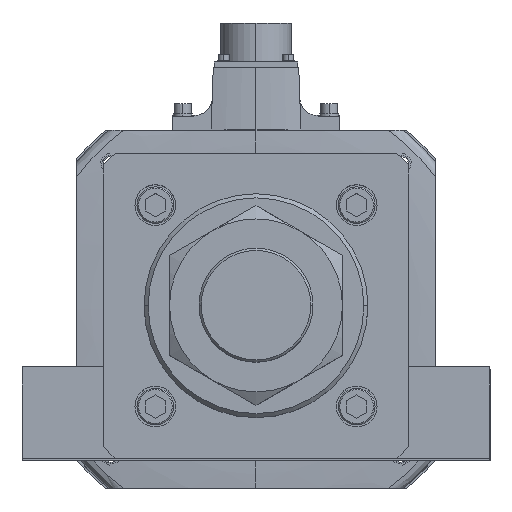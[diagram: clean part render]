
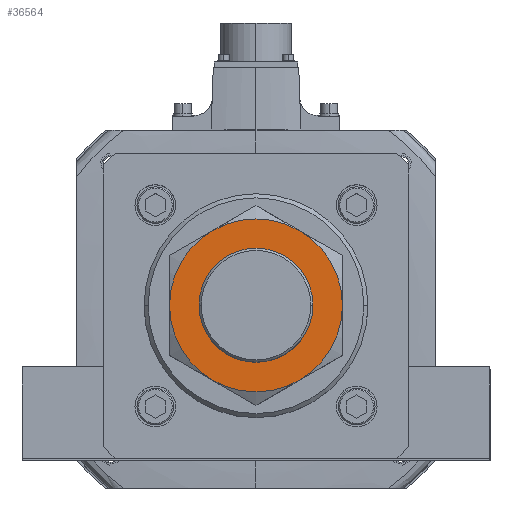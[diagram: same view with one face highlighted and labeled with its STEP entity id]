
A CAD part, top view. The second image highlights one B-rep face of the part: STEP entity #36564.
In plain terms, the highlighted planar face has unit normal (0, 0, 1).
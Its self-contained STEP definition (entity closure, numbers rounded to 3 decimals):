
#469 = AXIS2_PLACEMENT_3D ( 'NONE', #52998, #5721, #44133 ) ;
#611 = DIRECTION ( 'NONE',  ( 0., 0., -1. ) ) ;
#1082 = CIRCLE ( 'NONE', #21836, 42.5 ) ;
#2218 = CARTESIAN_POINT ( 'NONE',  ( 21.25, 36.806, 34. ) ) ;
#2553 = CARTESIAN_POINT ( 'NONE',  ( -42.5, 0., 34. ) ) ;
#4047 = DIRECTION ( 'NONE',  ( 0., 0., -1. ) ) ;
#5670 = CIRCLE ( 'NONE', #42420, 42.5 ) ;
#5721 = DIRECTION ( 'NONE',  ( 0., 0., -1. ) ) ;
#5809 = CARTESIAN_POINT ( 'NONE',  ( 0., 0., 34. ) ) ;
#6653 = VERTEX_POINT ( 'NONE', #2553 ) ;
#7205 = DIRECTION ( 'NONE',  ( 0., 0., 1. ) ) ;
#8912 = DIRECTION ( 'NONE',  ( 0., 0., -1. ) ) ;
#9027 = EDGE_CURVE ( 'NONE', #50448, #14360, #48736, .T. ) ;
#9112 = EDGE_CURVE ( 'NONE', #54146, #14655, #52095, .T. ) ;
#9610 = CARTESIAN_POINT ( 'NONE',  ( 0., 0., 34. ) ) ;
#10285 = DIRECTION ( 'NONE',  ( 0., 0., -1. ) ) ;
#10934 = EDGE_CURVE ( 'NONE', #14104, #46609, #18983, .T. ) ;
#12130 = FACE_OUTER_BOUND ( 'NONE', #49502, .T. ) ;
#12293 = DIRECTION ( 'NONE',  ( 1., 0., 0. ) ) ;
#12877 = AXIS2_PLACEMENT_3D ( 'NONE', #31445, #22599, #44392 ) ;
#14104 = VERTEX_POINT ( 'NONE', #35805 ) ;
#14214 = ORIENTED_EDGE ( 'NONE', *, *, #30088, .F. ) ;
#14360 = VERTEX_POINT ( 'NONE', #2218 ) ;
#14655 = VERTEX_POINT ( 'NONE', #22767 ) ;
#15838 = CIRCLE ( 'NONE', #21817, 42.5 ) ;
#16602 = AXIS2_PLACEMENT_3D ( 'NONE', #45604, #7205, #19887 ) ;
#16783 = ORIENTED_EDGE ( 'NONE', *, *, #31055, .F. ) ;
#17255 = DIRECTION ( 'NONE',  ( 0., 0., -1. ) ) ;
#18193 = CARTESIAN_POINT ( 'NONE',  ( -28., 0., 34. ) ) ;
#18983 = CIRCLE ( 'NONE', #29240, 42.5 ) ;
#19817 = AXIS2_PLACEMENT_3D ( 'NONE', #52004, #17255, #55567 ) ;
#19887 = DIRECTION ( 'NONE',  ( 1., 0., 0. ) ) ;
#21817 = AXIS2_PLACEMENT_3D ( 'NONE', #43383, #8912, #48078 ) ;
#21836 = AXIS2_PLACEMENT_3D ( 'NONE', #46415, #4047, #12293 ) ;
#22599 = DIRECTION ( 'NONE',  ( 0., 0., 1. ) ) ;
#22648 = ORIENTED_EDGE ( 'NONE', *, *, #53351, .F. ) ;
#22767 = CARTESIAN_POINT ( 'NONE',  ( 28., 0., 34. ) ) ;
#23019 = EDGE_LOOP ( 'NONE', ( #44265, #45854 ) ) ;
#23067 = EDGE_CURVE ( 'NONE', #46609, #6653, #15838, .T. ) ;
#24998 = ORIENTED_EDGE ( 'NONE', *, *, #10934, .F. ) ;
#29240 = AXIS2_PLACEMENT_3D ( 'NONE', #9610, #611, #30586 ) ;
#30088 = EDGE_CURVE ( 'NONE', #6653, #50448, #5670, .T. ) ;
#30586 = DIRECTION ( 'NONE',  ( 1., 0., 0. ) ) ;
#31055 = EDGE_CURVE ( 'NONE', #46372, #14104, #49913, .T. ) ;
#31445 = CARTESIAN_POINT ( 'NONE',  ( 0., 0., 34. ) ) ;
#31490 = DIRECTION ( 'NONE',  ( 0., 0., 1. ) ) ;
#32516 = ORIENTED_EDGE ( 'NONE', *, *, #9027, .F. ) ;
#35559 = CARTESIAN_POINT ( 'NONE',  ( 0., 0., 34. ) ) ;
#35805 = CARTESIAN_POINT ( 'NONE',  ( 21.25, -36.806, 34. ) ) ;
#35807 = DIRECTION ( 'NONE',  ( 1., 0., 0. ) ) ;
#36259 = FACE_BOUND ( 'NONE', #23019, .T. ) ;
#36448 = EDGE_CURVE ( 'NONE', #14655, #54146, #46329, .T. ) ;
#36564 = ADVANCED_FACE ( 'NONE', ( #12130, #36259 ), #53641, .T. ) ;
#39492 = CARTESIAN_POINT ( 'NONE',  ( -21.25, 36.806, 34. ) ) ;
#39866 = DIRECTION ( 'NONE',  ( -1., 0., 0. ) ) ;
#42420 = AXIS2_PLACEMENT_3D ( 'NONE', #35559, #10285, #39866 ) ;
#42667 = AXIS2_PLACEMENT_3D ( 'NONE', #5809, #31490, #35807 ) ;
#43383 = CARTESIAN_POINT ( 'NONE',  ( 0., 0., 34. ) ) ;
#44133 = DIRECTION ( 'NONE',  ( 1., 0., 0. ) ) ;
#44265 = ORIENTED_EDGE ( 'NONE', *, *, #9112, .F. ) ;
#44392 = DIRECTION ( 'NONE',  ( 1., 0., 0. ) ) ;
#45604 = CARTESIAN_POINT ( 'NONE',  ( 0., 0., 34. ) ) ;
#45854 = ORIENTED_EDGE ( 'NONE', *, *, #36448, .F. ) ;
#46329 = CIRCLE ( 'NONE', #12877, 28. ) ;
#46372 = VERTEX_POINT ( 'NONE', #52314 ) ;
#46415 = CARTESIAN_POINT ( 'NONE',  ( 0., 0., 34. ) ) ;
#46609 = VERTEX_POINT ( 'NONE', #50041 ) ;
#48078 = DIRECTION ( 'NONE',  ( 1., 0., 0. ) ) ;
#48736 = CIRCLE ( 'NONE', #469, 42.5 ) ;
#49502 = EDGE_LOOP ( 'NONE', ( #16783, #22648, #32516, #14214, #51572, #24998 ) ) ;
#49913 = CIRCLE ( 'NONE', #19817, 42.5 ) ;
#50041 = CARTESIAN_POINT ( 'NONE',  ( -21.25, -36.806, 34. ) ) ;
#50448 = VERTEX_POINT ( 'NONE', #39492 ) ;
#51572 = ORIENTED_EDGE ( 'NONE', *, *, #23067, .F. ) ;
#52004 = CARTESIAN_POINT ( 'NONE',  ( 0., 0., 34. ) ) ;
#52095 = CIRCLE ( 'NONE', #16602, 28. ) ;
#52314 = CARTESIAN_POINT ( 'NONE',  ( 42.5, 0., 34. ) ) ;
#52998 = CARTESIAN_POINT ( 'NONE',  ( 0., 0., 34. ) ) ;
#53351 = EDGE_CURVE ( 'NONE', #14360, #46372, #1082, .T. ) ;
#53641 = PLANE ( 'NONE',  #42667 ) ;
#54146 = VERTEX_POINT ( 'NONE', #18193 ) ;
#55567 = DIRECTION ( 'NONE',  ( 1., 0., 0. ) ) ;
